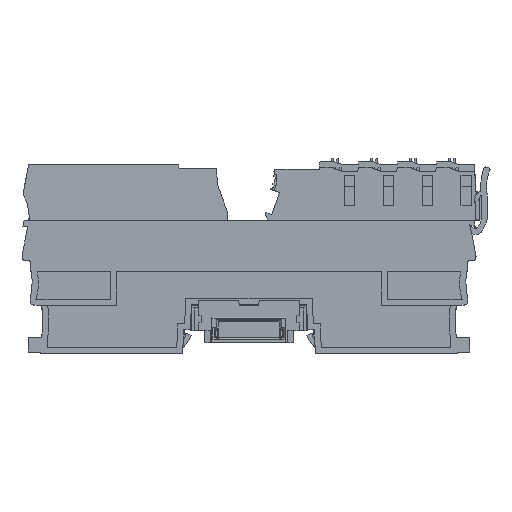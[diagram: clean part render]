
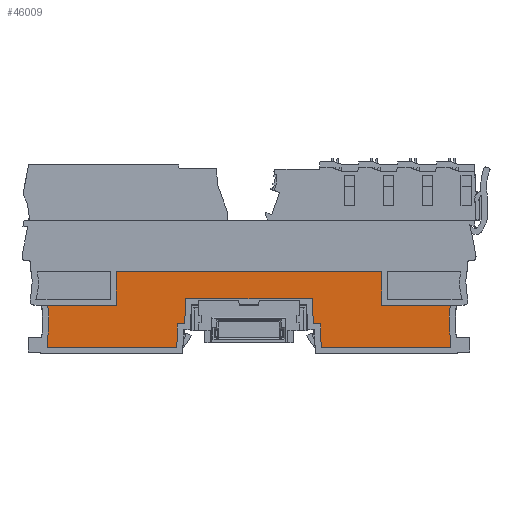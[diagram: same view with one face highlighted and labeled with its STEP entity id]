
A CAD part, left-side view. The second image highlights one B-rep face of the part: STEP entity #46009.
In plain terms, the highlighted planar face has unit normal (-1, 0, 0).
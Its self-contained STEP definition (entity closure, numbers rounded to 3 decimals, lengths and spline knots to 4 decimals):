
#2941=DIRECTION('',(0.,-1.,0.));
#2942=VECTOR('',#2941,0.7294);
#2943=CARTESIAN_POINT('',(0.0079,1.4479,
0.2598));
#2944=LINE('',#2943,#2942);
#5248=DIRECTION('',(0.,-0.035,0.999));
#5249=VECTOR('',#5248,0.2521);
#5250=CARTESIAN_POINT('',(0.0079,0.0775,
-0.189));
#5251=LINE('',#5250,#5249);
#5252=DIRECTION('',(0.,-1.,0.));
#5253=VECTOR('',#5252,1.3753);
#5254=CARTESIAN_POINT('',(0.0079,1.4528,
-0.189));
#5255=LINE('',#5254,#5253);
#5256=DIRECTION('',(0.,0.,-1.));
#5257=VECTOR('',#5256,0.076);
#5258=CARTESIAN_POINT('',(0.0079,1.4528,
-0.113));
#5259=LINE('',#5258,#5257);
#5260=CARTESIAN_POINT('',(0.0079,2.7598,
0.0906));
#5261=DIRECTION('',(1.,0.,0.));
#5262=DIRECTION('',(0.,-1.,0.));
#5263=AXIS2_PLACEMENT_3D('',#5260,#5261,#5262);
#5265=CARTESIAN_POINT('',(0.0079,2.7598,
0.0906));
#5266=DIRECTION('',(1.,0.,0.));
#5267=DIRECTION('',(0.,-0.992,0.128));
#5268=AXIS2_PLACEMENT_3D('',#5265,#5266,#5267);
#5270=DIRECTION('',(0.,0.,-1.));
#5271=VECTOR('',#5270,0.3583);
#5272=CARTESIAN_POINT('',(0.0079,0.7185,
0.6181));
#5273=LINE('',#5272,#5271);
#5274=DIRECTION('',(0.,1.,0.));
#5275=VECTOR('',#5274,2.815);
#5276=CARTESIAN_POINT('',(0.0079,-2.0965,
0.6181));
#5277=LINE('',#5276,#5275);
#5278=DIRECTION('',(0.,1.,0.));
#5279=VECTOR('',#5278,0.7294);
#5280=CARTESIAN_POINT('',(0.0079,-2.8258,
0.2598));
#5281=LINE('',#5280,#5279);
#5282=CARTESIAN_POINT('',(0.0079,-4.1378,
0.0906));
#5283=DIRECTION('',(1.,0.,0.));
#5284=DIRECTION('',(0.,1.,0.));
#5285=AXIS2_PLACEMENT_3D('',#5282,#5283,#5284);
#5287=CARTESIAN_POINT('',(0.0079,-4.1378,
0.0906));
#5288=DIRECTION('',(1.,0.,0.));
#5289=DIRECTION('',(0.,0.988,-0.154));
#5290=AXIS2_PLACEMENT_3D('',#5287,#5288,#5289);
#5292=DIRECTION('',(0.,-0.035,-0.999));
#5293=VECTOR('',#5292,0.2521);
#5294=CARTESIAN_POINT('',(0.0079,-1.4467,
0.063));
#5295=LINE('',#5294,#5293);
#5296=DIRECTION('',(0.,-1.,0.));
#5297=VECTOR('',#5296,0.0754);
#5298=CARTESIAN_POINT('',(0.0079,-1.3712,
0.063));
#5299=LINE('',#5298,#5297);
#5300=DIRECTION('',(0.,-0.035,-0.999));
#5301=VECTOR('',#5300,0.2659);
#5302=CARTESIAN_POINT('',(0.0079,-1.3619,
0.3287));
#5303=LINE('',#5302,#5301);
#5304=DIRECTION('',(0.,-0.035,0.999));
#5305=VECTOR('',#5304,0.2659);
#5306=CARTESIAN_POINT('',(0.0079,-0.0067,
0.063));
#5307=LINE('',#5306,#5305);
#5308=DIRECTION('',(0.,-1.,0.));
#5309=VECTOR('',#5308,0.0754);
#5310=CARTESIAN_POINT('',(0.0079,0.0687,
0.063));
#5311=LINE('',#5310,#5309);
#5344=DIRECTION('',(0.,1.,0.));
#5345=VECTOR('',#5344,1.3459);
#5346=CARTESIAN_POINT('',(0.0079,-1.3619,
0.3287));
#5347=LINE('',#5346,#5345);
#5364=DIRECTION('',(0.,1.,0.));
#5365=VECTOR('',#5364,1.3753);
#5366=CARTESIAN_POINT('',(0.0079,-2.8307,
-0.189));
#5367=LINE('',#5366,#5365);
#5372=DIRECTION('',(0.,0.,-1.));
#5373=VECTOR('',#5372,0.076);
#5374=CARTESIAN_POINT('',(0.0079,-2.8307,
-0.113));
#5375=LINE('',#5374,#5373);
#5384=DIRECTION('',(0.,0.,-1.));
#5385=VECTOR('',#5384,0.3583);
#5386=CARTESIAN_POINT('',(0.0079,-2.0965,
0.6181));
#5387=LINE('',#5386,#5385);
#36668=CARTESIAN_POINT('',(0.0079,1.4528,
-0.189));
#36669=VERTEX_POINT('',#36668);
#36670=CARTESIAN_POINT('',(0.0079,0.0775,
-0.189));
#36671=VERTEX_POINT('',#36670);
#36688=CARTESIAN_POINT('',(0.0079,0.0687,
0.063));
#36689=CARTESIAN_POINT('',(0.0079,-0.0067,
0.063));
#36690=VERTEX_POINT('',#36688);
#36691=VERTEX_POINT('',#36689);
#37836=CARTESIAN_POINT('',(0.0079,1.437,
0.0906));
#37837=CARTESIAN_POINT('',(0.0079,1.4528,
-0.113));
#37838=VERTEX_POINT('',#37836);
#37839=VERTEX_POINT('',#37837);
#37840=CARTESIAN_POINT('',(0.0079,1.4479,
0.2598));
#37841=VERTEX_POINT('',#37840);
#37925=CARTESIAN_POINT('',(0.0079,0.7185,
0.2598));
#37926=VERTEX_POINT('',#37925);
#37975=CARTESIAN_POINT('',(0.0079,-2.8258,
0.2598));
#37976=VERTEX_POINT('',#37975);
#37977=CARTESIAN_POINT('',(0.0079,-2.0965,
0.2598));
#37978=VERTEX_POINT('',#37977);
#37983=CARTESIAN_POINT('',(0.0079,-2.8307,
-0.113));
#37984=VERTEX_POINT('',#37983);
#37985=CARTESIAN_POINT('',(0.0079,-2.815,
0.0906));
#37986=VERTEX_POINT('',#37985);
#37987=CARTESIAN_POINT('',(0.0079,0.7185,
0.6181));
#37988=VERTEX_POINT('',#37987);
#37989=CARTESIAN_POINT('',(0.0079,-2.0965,
0.6181));
#37990=VERTEX_POINT('',#37989);
#37991=CARTESIAN_POINT('',(0.0079,-2.8307,
-0.189));
#37992=VERTEX_POINT('',#37991);
#37993=CARTESIAN_POINT('',(0.0079,-1.4555,
-0.189));
#37994=VERTEX_POINT('',#37993);
#37995=CARTESIAN_POINT('',(0.0079,-1.4467,
0.063));
#37996=VERTEX_POINT('',#37995);
#37997=CARTESIAN_POINT('',(0.0079,-1.3712,
0.063));
#37998=VERTEX_POINT('',#37997);
#37999=CARTESIAN_POINT('',(0.0079,-1.3619,
0.3287));
#38000=VERTEX_POINT('',#37999);
#38001=CARTESIAN_POINT('',(0.0079,-0.016,
0.3287));
#38002=VERTEX_POINT('',#38001);
#45966=CARTESIAN_POINT('',(0.0079,1.2412,
-0.1033));
#45967=DIRECTION('',(1.,0.,0.));
#45968=DIRECTION('',(0.,1.,0.));
#45969=AXIS2_PLACEMENT_3D('',#45966,#45967,#45968);
#45970=PLANE('',#45969);
#45972=ORIENTED_EDGE('',*,*,#45971,.F.);
#45974=ORIENTED_EDGE('',*,*,#45973,.F.);
#45976=ORIENTED_EDGE('',*,*,#45975,.F.);
#45978=ORIENTED_EDGE('',*,*,#45977,.F.);
#45980=ORIENTED_EDGE('',*,*,#45979,.F.);
#45981=ORIENTED_EDGE('',*,*,#43043,.T.);
#45983=ORIENTED_EDGE('',*,*,#45982,.F.);
#45985=ORIENTED_EDGE('',*,*,#45984,.F.);
#45987=ORIENTED_EDGE('',*,*,#45986,.T.);
#45988=ORIENTED_EDGE('',*,*,#45941,.F.);
#45989=ORIENTED_EDGE('',*,*,#45954,.F.);
#45990=ORIENTED_EDGE('',*,*,#45961,.F.);
#45992=ORIENTED_EDGE('',*,*,#45991,.T.);
#45994=ORIENTED_EDGE('',*,*,#45993,.T.);
#45996=ORIENTED_EDGE('',*,*,#45995,.F.);
#45998=ORIENTED_EDGE('',*,*,#45997,.F.);
#46000=ORIENTED_EDGE('',*,*,#45999,.F.);
#46002=ORIENTED_EDGE('',*,*,#46001,.T.);
#46004=ORIENTED_EDGE('',*,*,#46003,.F.);
#46006=ORIENTED_EDGE('',*,*,#46005,.F.);
#46007=EDGE_LOOP('',(#45972,#45974,#45976,#45978,#45980,#45981,#45983,#45985,
#45987,#45988,#45989,#45990,#45992,#45994,#45996,#45998,#46000,#46002,#46004,
#46006));
#46008=FACE_OUTER_BOUND('',#46007,.F.);
#46009=ADVANCED_FACE('',(#46008),#45970,.F.);
#5264=CIRCLE('',#5263,1.3228);
#5269=CIRCLE('',#5268,1.3228);
#5286=CIRCLE('',#5285,1.3228);
#5291=CIRCLE('',#5290,1.3228);
#43043=EDGE_CURVE('',#37841,#37926,#2944,.T.);
#45941=EDGE_CURVE('',#37976,#37978,#5281,.T.);
#45954=EDGE_CURVE('',#37986,#37976,#5286,.T.);
#45961=EDGE_CURVE('',#37984,#37986,#5291,.T.);
#45971=EDGE_CURVE('',#36671,#36690,#5251,.T.);
#45973=EDGE_CURVE('',#36669,#36671,#5255,.T.);
#45975=EDGE_CURVE('',#37839,#36669,#5259,.T.);
#45977=EDGE_CURVE('',#37838,#37839,#5264,.T.);
#45979=EDGE_CURVE('',#37841,#37838,#5269,.T.);
#45982=EDGE_CURVE('',#37988,#37926,#5273,.T.);
#45984=EDGE_CURVE('',#37990,#37988,#5277,.T.);
#45986=EDGE_CURVE('',#37990,#37978,#5387,.T.);
#45991=EDGE_CURVE('',#37984,#37992,#5375,.T.);
#45993=EDGE_CURVE('',#37992,#37994,#5367,.T.);
#45995=EDGE_CURVE('',#37996,#37994,#5295,.T.);
#45997=EDGE_CURVE('',#37998,#37996,#5299,.T.);
#45999=EDGE_CURVE('',#38000,#37998,#5303,.T.);
#46001=EDGE_CURVE('',#38000,#38002,#5347,.T.);
#46003=EDGE_CURVE('',#36691,#38002,#5307,.T.);
#46005=EDGE_CURVE('',#36690,#36691,#5311,.T.);
